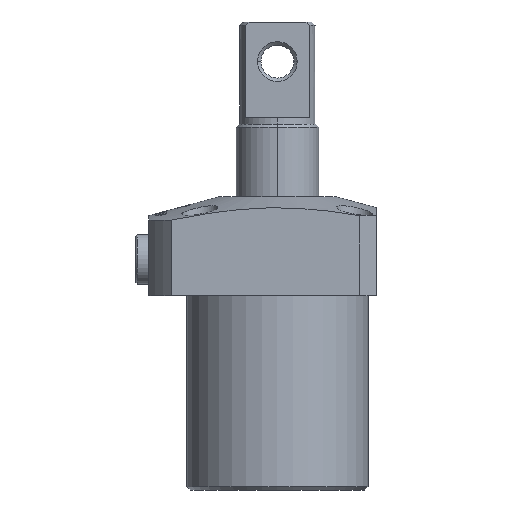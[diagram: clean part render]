
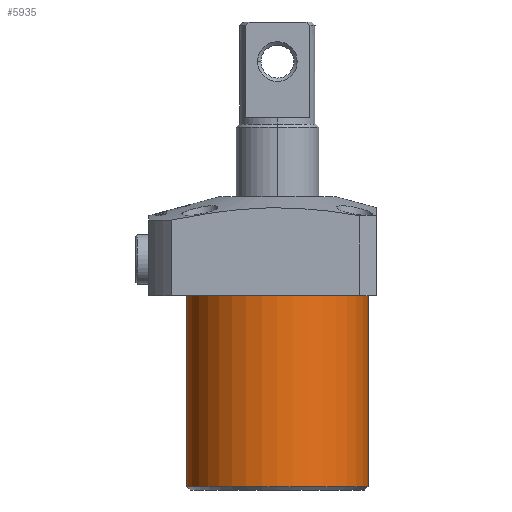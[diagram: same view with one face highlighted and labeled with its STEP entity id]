
A CAD part, front view. The second image highlights one B-rep face of the part: STEP entity #5935.
In plain terms, the highlighted cylindrical face has radius 27.5 mm (diameter 55 mm), a partial arc.
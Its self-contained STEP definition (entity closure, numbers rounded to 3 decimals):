
#329 = EDGE_CURVE ( 'NONE', #5582, #8030, #8517, .T. ) ;
#790 = EDGE_CURVE ( 'NONE', #8030, #13252, #10716, .T. ) ;
#1146 = CARTESIAN_POINT ( 'NONE',  ( 0., 0., -58. ) ) ;
#1323 = CYLINDRICAL_SURFACE ( 'NONE', #7504, 27.5 ) ;
#1520 = DIRECTION ( 'NONE',  ( 0., 0., 1. ) ) ;
#1578 = VERTEX_POINT ( 'NONE', #11037 ) ;
#1583 = CARTESIAN_POINT ( 'NONE',  ( -27.5, 0., 0. ) ) ;
#1696 = FACE_OUTER_BOUND ( 'NONE', #13992, .T. ) ;
#2368 = EDGE_CURVE ( 'NONE', #1578, #13252, #13822, .T. ) ;
#2372 = DIRECTION ( 'NONE',  ( -1., 0., 0. ) ) ;
#3471 = CARTESIAN_POINT ( 'NONE',  ( 0., 0., 0. ) ) ;
#3521 = DIRECTION ( 'NONE',  ( 0., 0., -1. ) ) ;
#3632 = DIRECTION ( 'NONE',  ( -1., 0., 0. ) ) ;
#3946 = ORIENTED_EDGE ( 'NONE', *, *, #11055, .T. ) ;
#4259 = CARTESIAN_POINT ( 'NONE',  ( 27.5, 0., -58. ) ) ;
#5582 = VERTEX_POINT ( 'NONE', #4259 ) ;
#5935 = ADVANCED_FACE ( 'NONE', ( #1696 ), #1323, .T. ) ;
#6432 = ORIENTED_EDGE ( 'NONE', *, *, #790, .T. ) ;
#6609 = CIRCLE ( 'NONE', #10397, 27.5 ) ;
#6617 = CARTESIAN_POINT ( 'NONE',  ( -27.5, 0., -59. ) ) ;
#7504 = AXIS2_PLACEMENT_3D ( 'NONE', #9831, #1520, #14564 ) ;
#7892 = VECTOR ( 'NONE', #13717, 1000. ) ;
#8030 = VERTEX_POINT ( 'NONE', #9642 ) ;
#8080 = ORIENTED_EDGE ( 'NONE', *, *, #2368, .F. ) ;
#8517 = LINE ( 'NONE', #11266, #13704 ) ;
#9465 = DIRECTION ( 'NONE',  ( 0., 0., 1. ) ) ;
#9642 = CARTESIAN_POINT ( 'NONE',  ( 27.5, 0., 0. ) ) ;
#9831 = CARTESIAN_POINT ( 'NONE',  ( 0., 0., -59. ) ) ;
#10397 = AXIS2_PLACEMENT_3D ( 'NONE', #1146, #9465, #2372 ) ;
#10716 = CIRCLE ( 'NONE', #15223, 27.5 ) ;
#11037 = CARTESIAN_POINT ( 'NONE',  ( -27.5, 0., -58. ) ) ;
#11055 = EDGE_CURVE ( 'NONE', #1578, #5582, #6609, .T. ) ;
#11266 = CARTESIAN_POINT ( 'NONE',  ( 27.5, 0., -59. ) ) ;
#12466 = DIRECTION ( 'NONE',  ( 0., 0., 1. ) ) ;
#13252 = VERTEX_POINT ( 'NONE', #1583 ) ;
#13704 = VECTOR ( 'NONE', #12466, 1000. ) ;
#13717 = DIRECTION ( 'NONE',  ( 0., 0., 1. ) ) ;
#13822 = LINE ( 'NONE', #6617, #7892 ) ;
#13992 = EDGE_LOOP ( 'NONE', ( #8080, #3946, #15021, #6432 ) ) ;
#14564 = DIRECTION ( 'NONE',  ( 1., 0., 0. ) ) ;
#15021 = ORIENTED_EDGE ( 'NONE', *, *, #329, .T. ) ;
#15223 = AXIS2_PLACEMENT_3D ( 'NONE', #3471, #3521, #3632 ) ;
